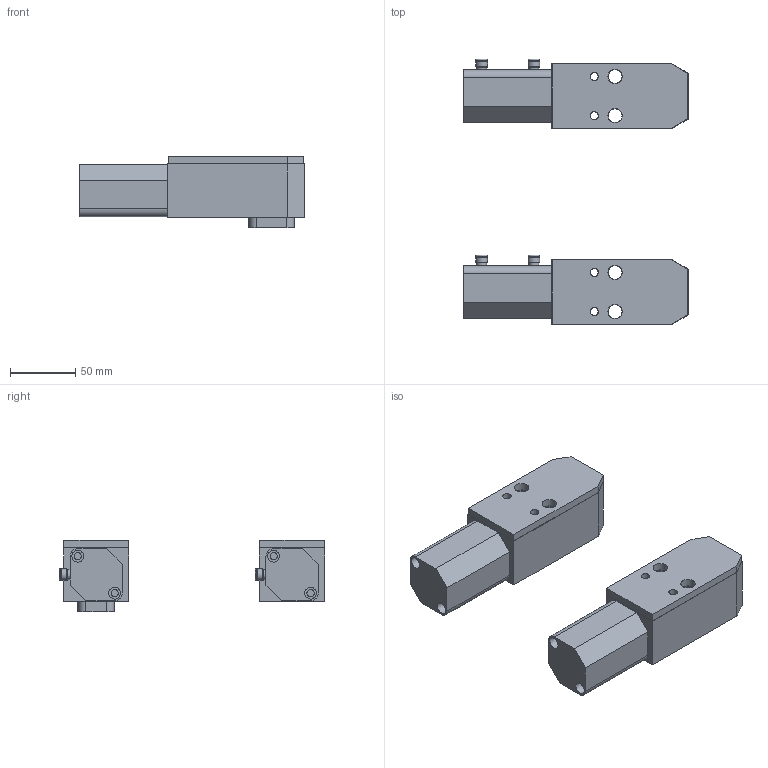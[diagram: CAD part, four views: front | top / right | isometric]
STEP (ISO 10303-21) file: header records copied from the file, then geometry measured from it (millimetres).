
FILE_DESCRIPTION(('STEP AP214'),'1');
FILE_NAME('1003.0016.stp','2020-05-22T14:12:38',(' '),(' '),'Spatial InterOp 3D',' ',' ');
FILE_SCHEMA(('AUTOMOTIVE_DESIGN { 1 0 10303 214 1 1 1 1 }'));
Length unit declared in the file: millimetre
Products named in the file (7): (PMS) 1003.0016; 6; 2; Assemblato; (PMI) 1003.0016; 5; 4
Assembly tree (6 placements, depth 3):
  Assemblato
    (PMS) 1003.0016
      6
      2
    (PMI) 1003.0016
      5
      4
Bounding box: 172 x 203.25 x 55 mm (x, y, z)
Volume: 619227.6 mm3; surface area: 113090.1 mm2
Topology: 4 solids, 4 shells, 782 faces, 2070 edges, 1380 vertices
Faces by surface type: extrusion 408, plane 250, cylinder 106, torus 12, cone 4, sphere 2
Full cylindrical faces by diameter (mm): 5.5 x4, 6 x4, 6.5 x4, 6.8 x4, 7.5 x8, 9 x12, 10.5 x4, 11 x4, 16 x2, 16.9 x4
Entity records: 30760 total; most frequent: CARTESIAN_POINT 6659, ORIENTED_EDGE 3968, DIRECTION 2568, EDGE_CURVE 1984, VERTEX_POINT 1362, VECTOR 1346, B_SPLINE_CURVE_WITH_KNOTS 1226, EDGE_LOOP 950
